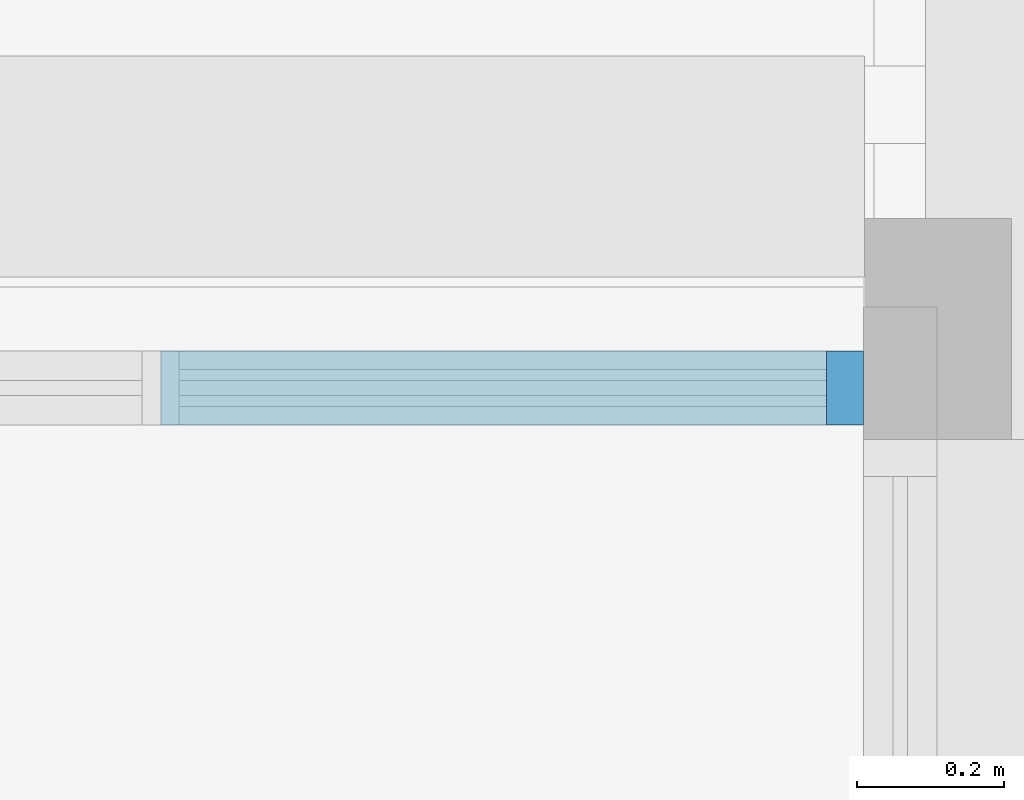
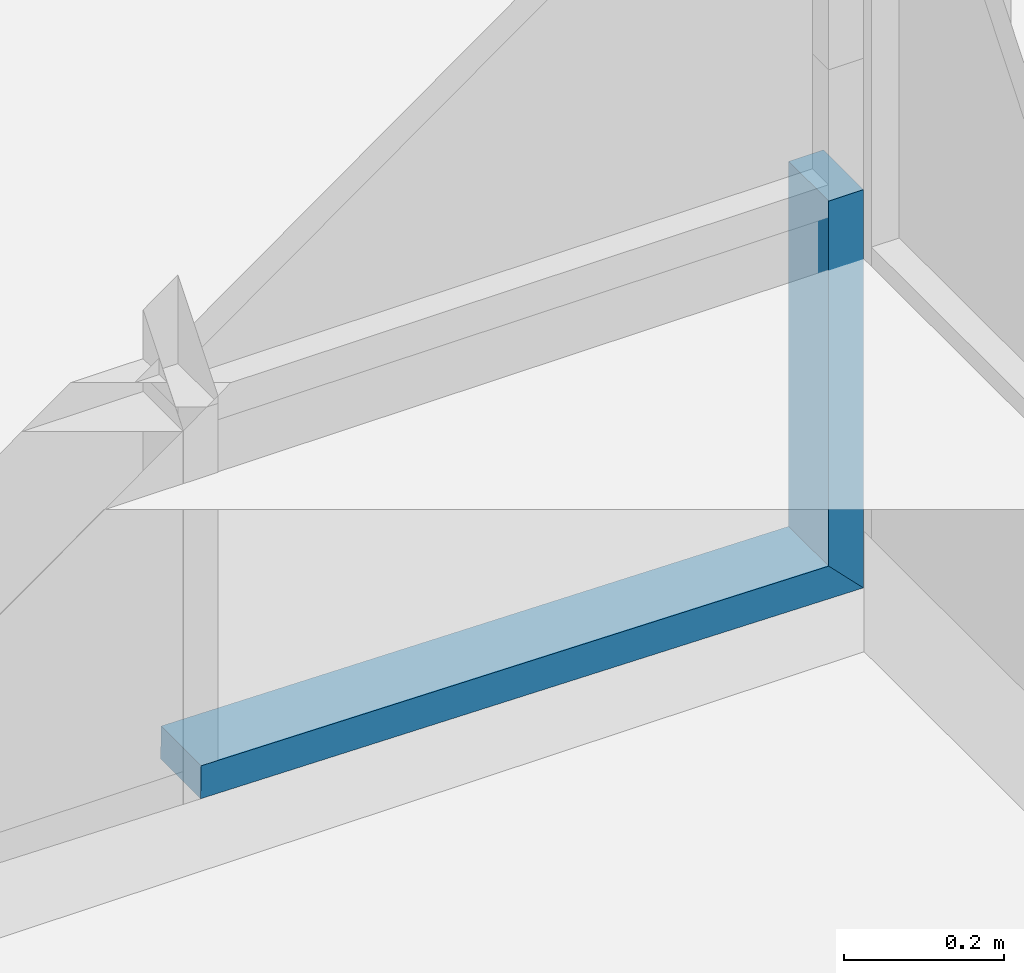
# One storey, part 77 of 117: 2 members, 1 element without a shape of its own.
"""IFC4 building model written with IfcOpenShell, lengths in metres."""

from ifc_helpers import new_model, entity, si_unit, converted_unit, derived_unit, direction, frame, origin, place, context, subcontext, project, spatial, polygons, source, transform, mapped, material, type_object, type_shapes, element, aggregate, save


model = new_model("IFC4")

# Units and contexts
model_context = context("Model", 3, precision=1e-05, world=origin(), true_north=direction((6.123031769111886e-17, 1.0)))
body_context = subcontext(model_context, "Body", "Model", "MODEL_VIEW")
ifc_project = project(units=[si_unit("LENGTHUNIT", "METRE"), si_unit("AREAUNIT", "SQUARE_METRE"), si_unit("VOLUMEUNIT", "CUBIC_METRE"), converted_unit("PLANEANGLEUNIT", "DEGREE", entity("IfcRatioMeasure", 0.017453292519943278), si_unit("PLANEANGLEUNIT", "RADIAN"), dimensions=[0, 0, 0, 0, 0, 0, 0]), si_unit("MASSUNIT", "GRAM", prefix="KILO"), derived_unit("MASSDENSITYUNIT", [(si_unit("MASSUNIT", "GRAM", prefix="KILO"), 1), (si_unit("LENGTHUNIT", "METRE"), -3)]), derived_unit("MOMENTOFINERTIAUNIT", [(si_unit("LENGTHUNIT", "METRE"), 4)]), si_unit("TIMEUNIT", "SECOND"), si_unit("FREQUENCYUNIT", "HERTZ"), si_unit("THERMODYNAMICTEMPERATUREUNIT", "DEGREE_CELSIUS"), derived_unit("THERMALTRANSMITTANCEUNIT", [(si_unit("MASSUNIT", "GRAM", prefix="KILO"), 1), (si_unit("THERMODYNAMICTEMPERATUREUNIT", "KELVIN"), -1), (si_unit("TIMEUNIT", "SECOND"), -3)]), derived_unit("VOLUMETRICFLOWRATEUNIT", [(si_unit("LENGTHUNIT", "METRE"), 3), (si_unit("TIMEUNIT", "SECOND"), -1)]), derived_unit("MASSFLOWRATEUNIT", [(si_unit("MASSUNIT", "GRAM", prefix="KILO"), 1), (si_unit("TIMEUNIT", "SECOND"), -1)]), derived_unit("ROTATIONALFREQUENCYUNIT", [(si_unit("TIMEUNIT", "SECOND"), -1)]), si_unit("ELECTRICCURRENTUNIT", "AMPERE"), si_unit("ELECTRICVOLTAGEUNIT", "VOLT"), si_unit("POWERUNIT", "WATT"), si_unit("FORCEUNIT", "NEWTON", prefix="KILO"), si_unit("ILLUMINANCEUNIT", "LUX"), si_unit("LUMINOUSFLUXUNIT", "LUMEN"), si_unit("LUMINOUSINTENSITYUNIT", "CANDELA"), derived_unit("USERDEFINED", [(si_unit("MASSUNIT", "GRAM", prefix="KILO"), -1), (si_unit("LENGTHUNIT", "METRE"), -2), (si_unit("TIMEUNIT", "SECOND"), 3), (si_unit("LUMINOUSFLUXUNIT", "LUMEN"), 1)]), derived_unit("SOUNDPOWERUNIT", [(si_unit("MASSUNIT", "GRAM", prefix="KILO"), 1), (si_unit("LENGTHUNIT", "METRE"), 2), (si_unit("TIMEUNIT", "SECOND"), -3)]), derived_unit("SOUNDPRESSUREUNIT", [(si_unit("MASSUNIT", "GRAM", prefix="KILO"), 1), (si_unit("LENGTHUNIT", "METRE"), -1), (si_unit("TIMEUNIT", "SECOND"), -2)]), derived_unit("LINEARVELOCITYUNIT", [(si_unit("LENGTHUNIT", "METRE"), 1), (si_unit("TIMEUNIT", "SECOND"), -1)]), si_unit("PRESSUREUNIT", "PASCAL"), derived_unit("USERDEFINED", [(si_unit("LENGTHUNIT", "METRE"), -2), (si_unit("MASSUNIT", "GRAM", prefix="KILO"), 1), (si_unit("TIMEUNIT", "SECOND"), -2)]), derived_unit("LINEARFORCEUNIT", [(si_unit("MASSUNIT", "GRAM", prefix="KILO"), 1), (si_unit("LENGTHUNIT", "METRE"), 1), (si_unit("TIMEUNIT", "SECOND"), -2), (si_unit("LENGTHUNIT", "METRE"), -1)]), derived_unit("PLANARFORCEUNIT", [(si_unit("MASSUNIT", "GRAM", prefix="KILO"), 1), (si_unit("LENGTHUNIT", "METRE"), 1), (si_unit("TIMEUNIT", "SECOND"), -2), (si_unit("LENGTHUNIT", "METRE"), -2)])], contexts=[model_context])

# Site, building, storey
site_placement = place(None, origin())
site = spatial("IfcSite", under=ifc_project, at=site_placement, Name="Superficie", CompositionType="ELEMENT")
building_placement = place(site_placement, origin())
building = spatial("IfcBuilding", under=site, at=building_placement, CompositionType="ELEMENT")
storey_placement = place(building_placement, origin())
storey = spatial("IfcBuildingStorey", under=building, at=storey_placement, Name="Nivel 0", CompositionType="ELEMENT", Elevation=0.0)

# Curtain wall, members
curtain_wall_type = type_object("IfcCurtainWallType", Name="Muro cortina:Muro cortina - simple", PredefinedType="NOTDEFINED")
curtain_wall_placement = place(storey_placement, origin())
curtain_wall = element("IfcCurtainWall", 1, at=curtain_wall_placement, inside=storey, type_object=curtain_wall_type, Name="Muro cortina:Muro cortina - simple", ObjectType="Muro cortina:Muro cortina - simple", PredefinedType="NOTDEFINED")
ifc_material = material(Name="<Unnamed>")
member_type_1 = type_object("IfcMemberType", Name="Montante rectangular:Montante rectangular - 5 x 10 cm", PredefinedType="MULLION", material=ifc_material)
shared_shape_1 = source(origin(), body_context, "Body", "Tessellation", [
    polygons([(-0.05, -0.05, -0.050691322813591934), (-0.05, 0.05, -0.050691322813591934), (-0.05, 0.05, -0.9550900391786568), (-0.05, -0.05, -0.9550900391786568), (0.0, -0.05, -1.0252064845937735e-15), (0.0, -0.05, -0.9550900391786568), (0.0, 0.05, -1.0265625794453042e-15), (0.0, 0.05, -0.9550900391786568)], [[[1, 2, 3, 4]], [[5, 1, 4, 6]], [[7, 5, 6, 8]], [[2, 7, 8, 3]], [[2, 1, 5, 7]], [[3, 8, 6, 4]]], closed=True),
])
type_shapes(member_type_1, [shared_shape_1])
member_1_placement = place(curtain_wall_placement, frame((12.790568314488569, 12.654548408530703, -0.5024695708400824), z_axis=(0.9999057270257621, 0.0, -0.013730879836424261), x_axis=(-0.013730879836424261, 0.0, -0.9999057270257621)))
member_1 = element("IfcMember", 2, at=member_1_placement, type_object=member_type_1, material=ifc_material, Name="Montante rectangular:Montante rectangular - 5 x 10 cm", ObjectType="Montante rectangular:Montante rectangular - 5 x 10 cm", PredefinedType="MULLION", context=body_context, shape_type="MappedRepresentation", body=[
    mapped(shared_shape_1, transform((0.0, 0.0, 0.0), scale=1.0)),
])
member_type_2 = type_object("IfcMemberType", Name="Montante rectangular:Montante rectangular - 5 x 10 cm", PredefinedType="MULLION", material=ifc_material)
shared_shape_2 = source(origin(), body_context, "Body", "Tessellation", [
    polygons([(-0.05, 0.05, 0.0), (-0.05, -0.05, 0.0), (0.0, -0.05, 0.0), (0.0, 0.05, 0.0), (-0.05, 0.05, -0.5560720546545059), (-0.05, -0.05, -0.5560720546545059), (0.0, -0.05, -0.6067633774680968), (0.0, 0.05, -0.6067633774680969)], [[[1, 2, 3, 4]], [[2, 1, 5, 6]], [[3, 2, 6, 7]], [[4, 3, 7, 8]], [[1, 4, 8, 5]], [[5, 8, 7, 6]]], closed=True),
])
type_shapes(member_type_2, [shared_shape_2])
member_2_placement = place(curtain_wall_placement, frame((12.790568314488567, 12.6545484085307, 0.10429380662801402)))
member_2 = element("IfcMember", 3, at=member_2_placement, type_object=member_type_2, material=ifc_material, Name="Montante rectangular:Montante rectangular - 5 x 10 cm", ObjectType="Montante rectangular:Montante rectangular - 5 x 10 cm", PredefinedType="MULLION", context=body_context, shape_type="MappedRepresentation", body=[
    mapped(shared_shape_2, transform((0.0, 0.0, 0.0), scale=1.0)),
])
aggregate(curtain_wall, [member_1, member_2])

save(model, "model.ifc")
